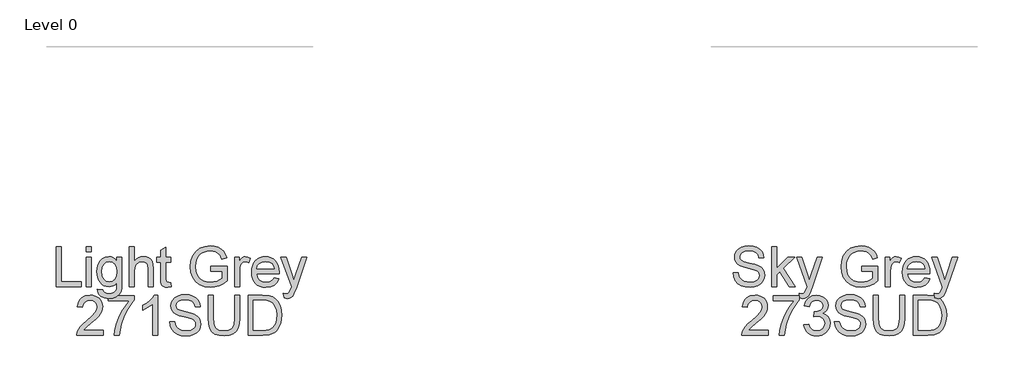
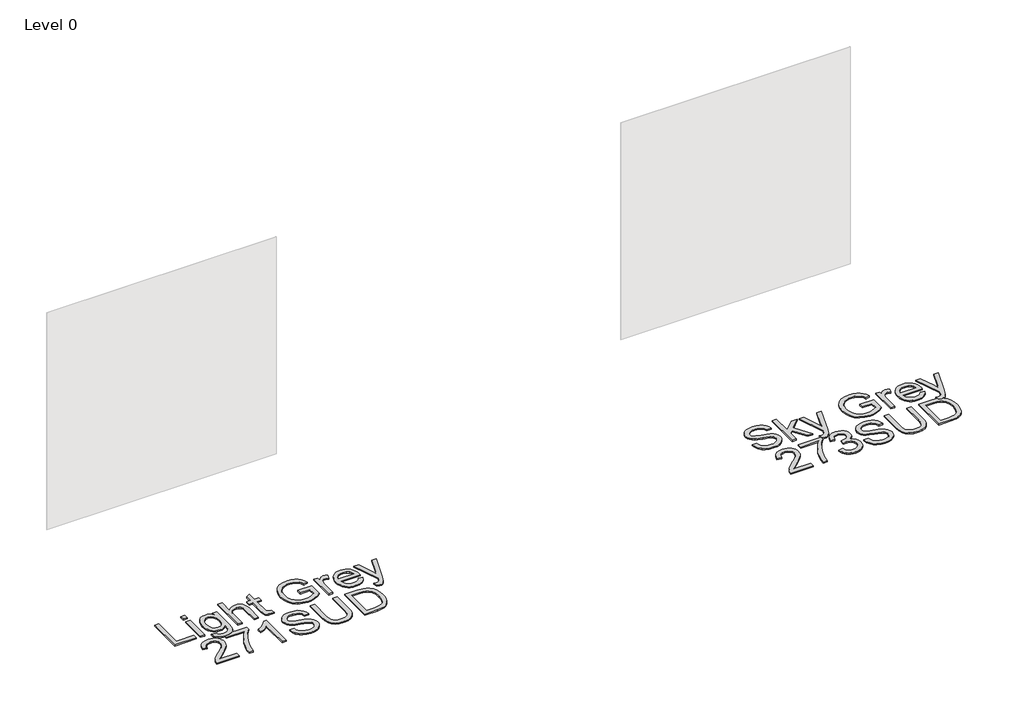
# One storey, part 19 of 37: 2 proxies.
"""IFC4 building model written with IfcOpenShell, lengths in millimetres."""

from ifc_helpers import new_model, si_unit, origin, origin_with_axes, place, context, project, spatial, polyline, outline, extrude, element, save

model = new_model("IFC4")

# Units and contexts
model_context = context("Model", 3, world=origin())
ifc_project = project(units=[si_unit("LENGTHUNIT", "METRE", prefix="MILLI")], contexts=[model_context])

# Site, building, storey
site = spatial("IfcSite", under=ifc_project)
building = spatial("IfcBuilding", under=site)
storey = spatial("IfcBuildingStorey", under=building, Name="Level 0", Elevation=0.0)

# Proxies
placement = place(None, origin())
element("IfcBuildingElementProxy", 1, Name="300mm Arial", ObjectType="300mm Arial", at=placement, inside=storey, context=model_context, shape_type="SweptSolid", body=[
    extrude(outline(polyline([(4713.5140507, -31849.2649241), (4751.185167, -31849.2649241), (4755.5077804, -31870.1698185), (4763.3252728, -31886.9728286), (4775.5205609, -31900.308551), (4792.9765616, -31910.8115819), (4814.3137173, -31917.6265959), (4838.1524706, -31919.8982672), (4859.1401384, -31918.1784189), (4877.5158441, -31913.0188739), (4892.4058679, -31904.8518936), (4902.93649, -31894.1097394), (4909.1996809, -31881.7764955), (4911.2874113, -31868.8362463), (4909.7239128, -31856.2270909), (4905.0334173, -31845.3285868), (4895.5052737, -31836.0303694), (4879.4288305, -31828.222074), (4824.577625, -31813.837888), (4788.5711747, -31804.3189414), (4765.5325648, -31795.2598472), (4746.7797801, -31782.5863125), (4733.490043, -31767.2272392), (4725.571383, -31749.5137211), (4722.9318297, -31729.7768521), (4726.1967824, -31707.7131294), (4735.9916406, -31687.1393289), (4752.0588867, -31669.7017223), (4774.1410035, -31657.0465817), (4800.6469012, -31649.3486509), (4829.9854903, -31646.782674), (4861.7704947, -31649.4682126), (4889.5823735, -31657.5248283), (4912.4278454, -31670.7869742), (4929.313629, -31689.0891034), (4940.000601, -31711.2907818), (4944.249638, -31736.2515752), (4906.5785217, -31736.2515752), (4899.6623402, -31713.7739853), (4885.241366, -31697.5503893), (4862.7085938, -31687.7279401), (4831.4570183, -31684.4537903), (4799.4696788, -31687.6911519), (4777.5255178, -31697.4032365), (4764.833589, -31711.695452), (4760.602946, -31728.6732061), (4763.6011843, -31743.1493626), (4772.5958991, -31754.7928278), (4793.8594784, -31765.2038882), (4834.1057687, -31775.8356779), (4875.6396459, -31785.9340387), (4900.7659862, -31794.7448125), (4922.2410977, -31808.4116286), (4937.2230919, -31825.2790181), (4946.0246687, -31845.1630399), (4948.9585276, -31867.8797531), (4945.5832103, -31891.102304), (4935.4572583, -31912.9452975), (4918.9945391, -31931.7440675), (4896.6089197, -31945.8339479), (4869.6891547, -31954.6355246), (4839.6239986, -31957.5693835), (4802.7162374, -31954.4055984), (4772.3383817, -31944.9142429), (4748.1409434, -31929.0585289), (4729.7744348, -31906.8016682), (4717.9838169, -31879.6887651), (4713.5140507, -31849.2649241)])), origin_with_axes(), (0.0, 0.0, 1.0), 10.0),
    extrude(outline(polyline([(5000.7563125, -31952.860494), (5000.7563125, -31651.4915635), (5038.4274288, -31651.4915635), (5038.4274288, -31813.4332178), (5122.8931349, -31731.5426857), (5174.9852254, -31731.5426857), (5089.4894497, -31814.4632874), (5179.6941149, -31952.860494), (5135.6954283, -31952.860494), (5062.4869113, -31840.6564855), (5038.4274288, -31863.9802039), (5038.4274288, -31952.860494), (5000.7563125, -31952.860494)])), origin_with_axes(), (0.0, 0.0, 1.0), 10.0),
    extrude(outline(polyline([(5212.6563417, -32037.6205057), (5207.9474522, -32001.3473409), (5227.0773159, -32004.6582789), (5244.9563809, -32000.5012124), (5255.9192643, -31988.9129295), (5266.2199602, -31961.1746271), (5269.1630162, -31952.0511536), (5189.111894, -31731.5426857), (5228.8431495, -31731.5426857), (5271.2967317, -31854.4152721), (5286.0855879, -31903.5643066), (5300.8744442, -31860.1542312), (5344.5052488, -31731.5426857), (5383.9421987, -31731.5426857), (5306.9077089, -31958.1579947), (5286.8949283, -32007.3070293), (5276.6494148, -32022.9971964), (5265.0427378, -32033.8681093), (5251.5598627, -32040.2140737), (5235.6857546, -32042.3293952), (5212.6563417, -32037.6205057)])), origin_with_axes(), (0.0, 0.0, 1.0), 10.0),
    extrude(outline(polyline([(5678.836406, -31835.1382555), (5678.836406, -31797.4671392), (5801.267534, -31797.4671392), (5801.267534, -31910.1126061), (5771.5150776, -31930.8059684), (5740.8245222, -31945.6500069), (5709.269444, -31954.5895394), (5676.9234196, -31957.5693835), (5634.6629754, -31952.8329028), (5596.4676273, -31938.6234608), (5564.7378052, -31915.437698), (5541.8739392, -31883.7722553), (5528.0507732, -31845.7884393), (5523.4430512, -31803.6475567), (5528.0323791, -31761.2031715), (5541.8003628, -31721.7202364), (5564.1767851, -31688.6016598), (5594.5914291, -31665.2503502), (5631.637146, -31651.399593), (5673.9067873, -31646.782674), (5704.9376336, -31649.4590155), (5732.8414829, -31657.4880401), (5756.3399453, -31670.2903335), (5774.1546309, -31687.2864817), (5787.3340034, -31709.295022), (5796.9265264, -31737.134492), (5762.1984661, -31746.9201531), (5754.4453531, -31727.0637224), (5745.0183769, -31712.0817281), (5732.5471773, -31700.7877509), (5715.6613937, -31691.9953712), (5695.5290515, -31686.3391855), (5673.3181761, -31684.4537903), (5647.3181161, -31686.4863383), (5625.0888465, -31692.5839824), (5606.7131408, -31701.9833674), (5592.2737725, -31713.9211381), (5572.8863914, -31742.9470275), (5564.0572235, -31771.3843058), (5561.1141675, -31802.1024524), (5564.6550317, -31838.1272967), (5575.2776244, -31867.7693885), (5592.6600486, -31890.8171955), (5616.4804078, -31907.0591856), (5644.356666, -31916.6884968), (5673.9067873, -31919.8982672), (5699.9988178, -31917.4794431), (5725.4470548, -31910.2229707), (5747.5475656, -31900.2257775), (5763.5964177, -31889.5847908), (5763.5964177, -31835.1382555), (5678.836406, -31835.1382555)])), origin_with_axes(), (0.0, 0.0, 1.0), 10.0),
    extrude(outline(polyline([(5857.7742084, -31952.860494), (5857.7742084, -31731.5426857), (5890.7364352, -31731.5426857), (5890.7364352, -31764.2841833), (5902.9133293, -31745.3014723), (5914.1337301, -31734.1178596), (5925.3909192, -31728.654812), (5937.6781778, -31726.8337961), (5956.4401596, -31729.7400639), (5975.4964469, -31738.4588672), (5962.9148827, -31772.2304343), (5949.6711308, -31766.4362929), (5936.427379, -31764.5049125), (5925.179387, -31766.3627165), (5915.1270115, -31771.9361288), (5907.0060165, -31780.8020848), (5901.5521659, -31792.5375205), (5896.972035, -31813.5803706), (5895.4453248, -31836.5362071), (5895.4453248, -31952.860494), (5857.7742084, -31952.860494)])), origin_with_axes(), (0.0, 0.0, 1.0), 10.0),
    extrude(outline(polyline([(6153.992791, -31886.9360404), (6190.9281433, -31891.64493), (6177.6200121, -31919.4752029), (6156.3840239, -31940.2789297), (6127.6984254, -31953.2467701), (6092.041463, -31957.5693835), (6068.6671607, -31955.7046817), (6047.8404413, -31950.1105761), (6029.5613046, -31940.7870668), (6013.8297508, -31927.7341537), (6001.1792087, -31911.3151204), (5992.1431072, -31891.8932503), (5986.7214463, -31869.4685435), (5984.914226, -31844.0409998), (5986.7398404, -31817.7512327), (5992.2166836, -31794.5792656), (6001.3447556, -31774.5250983), (6014.1240564, -31757.5887309), (6029.8142235, -31744.133447), (6047.6748944, -31734.5225298), (6067.706069, -31728.7559796), (6089.9077474, -31726.8337961), (6111.3943552, -31728.751381), (6130.8254223, -31734.5041357), (6148.2009488, -31744.0920602), (6163.5209346, -31757.5151545), (6176.0266232, -31774.4147337), (6184.9592579, -31794.4321128), (6190.3188387, -31817.5672917), (6192.1053657, -31843.8202706), (6191.8846365, -31853.9738137), (6022.5853423, -31853.9738137), (6029.1060507, -31882.1719686), (6044.2535918, -31902.902119), (6066.1149794, -31915.6492302), (6092.777227, -31919.8982672), (6112.8267957, -31917.9300985), (6129.7125793, -31912.0255925), (6143.4345777, -31901.8168672), (6153.992791, -31886.9360404)]), holes=[polyline([(6022.5853423, -31816.3026974), (6154.4342494, -31816.3026974), (6149.3390837, -31796.4002814), (6139.3510876, -31782.1632482), (6117.3885324, -31768.9194964), (6089.7605946, -31764.5049125), (6064.3675399, -31768.0273826), (6043.370675, -31778.5947929), (6028.7749569, -31795.0667092), (6022.5853423, -31816.3026974)])]), origin_with_axes(), (0.0, 0.0, 1.0), 10.0),
    extrude(outline(polyline([(6229.776482, -32037.6205057), (6225.0675924, -32001.3473409), (6244.1974562, -32004.6582789), (6262.0765211, -32000.5012124), (6273.0394046, -31988.9129295), (6283.3401005, -31961.1746271), (6286.2831564, -31952.0511536), (6206.2320343, -31731.5426857), (6245.9632898, -31731.5426857), (6288.416872, -31854.4152721), (6303.2057282, -31903.5643066), (6317.9945844, -31860.1542312), (6361.625389, -31731.5426857), (6401.0623389, -31731.5426857), (6324.0278491, -31958.1579947), (6304.0150686, -32007.3070293), (6293.769555, -32022.9971964), (6282.1628781, -32033.8681093), (6268.680003, -32040.2140737), (6252.8058949, -32042.3293952), (6229.776482, -32037.6205057)])), origin_with_axes(), (0.0, 0.0, 1.0), 10.0),
    extrude(outline(polyline([(4974.85742, -32281.1138312), (4974.85742, -32318.7849475), (4777.0840594, -32318.7849475), (4781.1307614, -32292.8124787), (4790.4197817, -32272.5145896), (4804.0130215, -32252.8237058), (4823.6763141, -32232.213117), (4851.1754932, -32209.156113), (4891.8264537, -32173.0484951), (4916.21703, -32146.3954446), (4928.4123181, -32124.7639833), (4932.4774142, -32103.7211331), (4928.6422444, -32084.8579838), (4917.136735, -32069.1770138), (4899.4508081, -32058.6096035), (4877.0743857, -32055.0871334), (4853.5759233, -32058.52683), (4835.3197793, -32068.84592), (4823.5383584, -32085.2350629), (4819.4640653, -32106.8849183), (4781.792949, -32102.1760288), (4790.9256195, -32065.7373171), (4799.4719781, -32051.2013798), (4810.6716856, -32039.1210548), (4824.2672246, -32029.6251008), (4840.0010776, -32022.8422765), (4877.8837261, -32017.4160171), (4898.0735498, -32018.9243332), (4916.042286, -32023.4492818), (4931.7899347, -32030.9908627), (4945.3164958, -32041.549076), (4956.180511, -32054.3421723), (4963.9405218, -32068.5884026), (4968.5965283, -32084.2877667), (4970.1485305, -32101.4402648), (4968.4746674, -32119.4572855), (4963.4530782, -32137.1616065), (4954.5411368, -32155.1694302), (4941.1962175, -32174.0969588), (4919.9234411, -32196.6941104), (4887.2279288, -32225.7108027), (4843.8914297, -32261.9471793), (4826.8952816, -32281.1138312), (4974.85742, -32281.1138312)])), origin_with_axes(), (0.0, 0.0, 1.0), 10.0),
    extrude(outline(polyline([(5012.5285363, -32059.7960229), (5012.5285363, -32022.1249066), (5210.3018969, -32022.1249066), (5210.3018969, -32052.5855358), (5182.1129391, -32088.2608923), (5154.1998927, -32133.6299393), (5129.5793901, -32184.5540045), (5111.2680638, -32236.8944154), (5102.2917432, -32276.0554538), (5097.288548, -32318.7849475), (5059.6174317, -32318.7849475), (5063.6917248, -32279.9550029), (5074.5902289, -32233.8042066), (5092.0186384, -32184.8850983), (5115.6826478, -32137.7502177), (5143.3105856, -32095.1402856), (5172.6307806, -32059.7960229), (5012.5285363, -32059.7960229)])), origin_with_axes(), (0.0, 0.0, 1.0), 10.0),
    extrude(outline(polyline([(5243.2641237, -32238.7338254), (5280.93524, -32234.0249358), (5289.3689348, -32257.6981422), (5301.7205727, -32273.6826149), (5318.5971593, -32282.7876943), (5340.6056996, -32285.8227207), (5366.4310157, -32281.6472601), (5386.3702198, -32269.1208782), (5399.117331, -32250.4324728), (5403.366368, -32227.7709419), (5399.1541192, -32206.2590422), (5386.5173726, -32188.8122386), (5367.3875089, -32177.2515469), (5343.6959084, -32173.397983), (5317.2819811, -32177.5182614), (5321.4758359, -32139.8471451), (5327.5091006, -32140.2886035), (5350.078661, -32137.5846708), (5370.2569884, -32129.4728728), (5384.4940217, -32115.7508744), (5389.2396994, -32096.2163404), (5385.8000027, -32079.9467592), (5375.4809128, -32066.7489926), (5359.7355634, -32058.0025982), (5340.0170884, -32055.0871334), (5320.2618253, -32058.0301893), (5304.1118057, -32066.8593572), (5292.3211878, -32081.574637), (5285.6441295, -32102.1760288), (5247.9730132, -32097.4671392), (5259.0646554, -32063.6403898), (5278.8015244, -32038.3852908), (5305.8040629, -32022.6583355), (5338.6927133, -32017.4160171), (5362.3751167, -32020.0003881), (5384.1261397, -32027.7535011), (5402.4650571, -32039.9855775), (5415.911144, -32056.0068384), (5424.1608978, -32074.4653175), (5426.9108157, -32094.0090485), (5424.2988535, -32112.2192072), (5416.462967, -32128.7371088), (5403.5135208, -32142.8085951), (5385.5608794, -32153.6795081), (5409.1421153, -32163.2076518), (5426.6165101, -32179.4312477), (5437.4322408, -32201.4673793), (5441.0374843, -32228.4331295), (5439.2348625, -32247.5445992), (5433.8269972, -32265.1477526), (5424.8138883, -32281.2425899), (5412.1955359, -32295.829111), (5396.822667, -32307.9324287), (5379.5460088, -32316.5776555), (5360.3655613, -32321.7647917), (5339.2813244, -32323.4938371), (5320.2250371, -32322.0177105), (5302.8610069, -32317.589331), (5287.1892339, -32310.2086985), (5273.2097181, -32299.875813), (5261.488078, -32287.1976797), (5252.5899323, -32272.781304), (5246.5152808, -32256.6266859), (5243.2641237, -32238.7338254)])), origin_with_axes(), (0.0, 0.0, 1.0), 10.0),
    extrude(outline(polyline([(5473.9997111, -32215.1893777), (5511.6708274, -32215.1893777), (5515.9934408, -32236.0942721), (5523.8109332, -32252.8972822), (5536.0062214, -32266.2330045), (5553.462222, -32276.7360355), (5574.7993778, -32283.5510494), (5598.638131, -32285.8227207), (5619.6257989, -32284.1028724), (5638.0015045, -32278.9433274), (5652.8915283, -32270.7763471), (5663.4221504, -32260.0341929), (5669.6853414, -32247.700949), (5671.7730717, -32234.7606998), (5670.2095732, -32222.1515444), (5665.5190778, -32211.2530403), (5655.9909341, -32201.9548229), (5639.9144909, -32194.1465276), (5585.0632854, -32179.7623415), (5549.0568351, -32170.2433949), (5526.0182252, -32161.1843008), (5507.2654405, -32148.510766), (5493.9757034, -32133.1516928), (5486.0570435, -32115.4381747), (5483.4174902, -32095.7013056), (5486.6824429, -32073.637583), (5496.477301, -32053.0637824), (5512.5445471, -32035.6261758), (5534.6266639, -32022.9710352), (5561.1325616, -32015.2731044), (5590.4711508, -32012.7071275), (5622.2561551, -32015.3926661), (5650.068034, -32023.4492818), (5672.9135059, -32036.7114277), (5689.7992895, -32055.013557), (5700.4862614, -32077.2152354), (5704.7352985, -32102.1760288), (5667.0641821, -32102.1760288), (5660.1480006, -32079.6984389), (5645.7270264, -32063.4748429), (5623.1942542, -32053.6523936), (5591.9426787, -32050.3782438), (5559.9553393, -32053.6156054), (5538.0111782, -32063.3276901), (5525.3192494, -32077.6199056), (5521.0886065, -32094.5976597), (5524.0868447, -32109.0738162), (5533.0815595, -32120.7172813), (5554.3451388, -32131.1283418), (5594.5914291, -32141.7601314), (5636.1253064, -32151.8584922), (5661.2516466, -32160.669266), (5682.7267581, -32174.3360821), (5697.7087523, -32191.2034716), (5706.5103291, -32211.0874934), (5709.444188, -32233.8042066), (5706.0688707, -32257.0267576), (5695.9429188, -32278.869751), (5679.4801995, -32297.668521), (5657.0945801, -32311.7584014), (5630.1748151, -32320.5599781), (5600.109659, -32323.4938371), (5563.2018979, -32320.3300519), (5532.8240421, -32310.8386964), (5508.6266039, -32294.9829824), (5490.2600953, -32272.7261217), (5478.4694773, -32245.6132187), (5473.9997111, -32215.1893777)])), origin_with_axes(), (0.0, 0.0, 1.0), 10.0),
    extrude(outline(polyline([(5963.7242231, -32017.4160171), (6001.3953394, -32017.4160171), (6001.3953394, -32191.277048), (5998.8385595, -32231.9923878), (5991.1682199, -32263.3451308), (5976.8392162, -32287.533372), (5954.306444, -32306.7552063), (5923.514721, -32319.3091794), (5884.4088649, -32323.4938371), (5846.1583345, -32319.8518053), (5815.5781436, -32308.92571), (5792.6590953, -32291.0926303), (5777.3919925, -32266.7296452), (5768.811145, -32234.052527), (5765.9508625, -32191.277048), (5765.9508625, -32017.4160171), (5803.6219788, -32017.4160171), (5803.6219788, -32189.9526728), (5805.4797828, -32223.8070134), (5811.0531951, -32247.3790523), (5821.1515558, -32263.7038158), (5836.5842055, -32275.8163305), (5856.7073507, -32283.3211232), (5880.8771977, -32285.8227207), (5919.1921075, -32280.8747079), (5933.5349068, -32274.6896919), (5944.6679357, -32266.0306694), (5953.0050614, -32253.8537754), (5958.9601512, -32237.1151446), (5963.7242231, -32189.9526728), (5963.7242231, -32017.4160171)])), origin_with_axes(), (0.0, 0.0, 1.0), 10.0),
    extrude(outline(polyline([(6067.3197929, -32318.7849475), (6067.3197929, -32017.4160171), (6171.2832447, -32017.4160171), (6225.0675924, -32021.7570246), (6249.0902867, -32030.12634), (6269.3605847, -32043.3149095), (6290.2010997, -32066.270746), (6305.0451382, -32094.8183889), (6313.9294884, -32128.406015), (6316.8909384, -32166.4818015), (6314.8859816, -32198.8278259), (6308.8711109, -32227.2926953), (6299.7108493, -32251.5269217), (6288.2697192, -32271.1810173), (6275.0995438, -32286.6964405), (6260.752146, -32298.5146496), (6244.2802296, -32307.2794381), (6224.7364986, -32313.6345996), (6176.2864399, -32318.7849475), (6067.3197929, -32318.7849475)]), holes=[polyline([(6104.9909092, -32281.1138312), (6171.6511267, -32281.1138312), (6199.2238823, -32279.7526678), (6220.1379737, -32275.6691777), (6235.9201113, -32269.1024841), (6248.0970053, -32260.2917103), (6261.1844073, -32243.9853408), (6271.0160536, -32222.8781114), (6277.16888, -32196.8780514), (6279.2198221, -32165.8931903), (6275.2007113, -32124.8375597), (6263.1433789, -32094.5240833), (6245.3286933, -32073.7019623), (6224.0375228, -32061.1203981), (6202.3692733, -32056.5954496), (6170.6210571, -32055.0871334), (6104.9909092, -32055.0871334), (6104.9909092, -32281.1138312)])]), origin_with_axes(), (0.0, 0.0, 1.0), 10.0),
])
element("IfcBuildingElementProxy", 2, Name="300mm Arial", ObjectType="300mm Arial", at=placement, inside=storey, context=model_context, shape_type="SweptSolid", body=[
    extrude(outline(polyline([(-378.3092953, -31952.860494), (-378.3092953, -31651.4915635), (-340.638179, -31651.4915635), (-340.638179, -31915.1893777), (-189.9537138, -31915.1893777), (-189.9537138, -31952.860494), (-378.3092953, -31952.860494)])), origin_with_axes(), (0.0, 0.0, 1.0), 10.0),
    extrude(outline(polyline([(-152.2825975, -31952.860494), (-152.2825975, -31731.5426857), (-114.6114812, -31731.5426857), (-114.6114812, -31952.860494), (-152.2825975, -31952.860494)])), origin_with_axes(), (0.0, 0.0, 1.0), 10.0),
    extrude(outline(polyline([(-152.2825975, -31689.1626798), (-152.2825975, -31651.4915635), (-114.6114812, -31651.4915635), (-114.6114812, -31689.1626798), (-152.2825975, -31689.1626798)])), origin_with_axes(), (0.0, 0.0, 1.0), 10.0),
    extrude(outline(polyline([(-67.5225858, -31971.6960521), (-29.8514695, -31976.4049417), (-25.694403, -31988.1771655), (-17.6377873, -31996.2705694), (-1.8004674, -32002.5613515), (18.929683, -32004.6582789), (41.039391, -32002.28544), (57.4837161, -31995.1669234), (68.888058, -31983.7625816), (75.8778159, -31968.532267), (78.4529899, -31924.6071568), (65.9174109, -31936.9679918), (51.928698, -31945.7971597), (36.4868513, -31951.0946604), (19.5918706, -31952.860494), (-1.0624041, -31950.8049533), (-19.247271, -31944.6383314), (-34.96273, -31934.3606281), (-48.2087811, -31919.9718436), (-58.7187098, -31902.708981), (-66.2258018, -31883.8090435), (-70.730057, -31863.2720311), (-72.2314754, -31841.0979438), (-69.5367397, -31810.6832999), (-61.4525329, -31782.7150712), (-48.2639634, -31759.0142737), (-30.2561397, -31741.4019232), (-8.0452642, -31730.4758279), (17.7524607, -31726.8337961), (35.3694097, -31728.8939353), (51.3584809, -31735.0743528), (65.7196743, -31745.3750487), (78.4529899, -31759.7960229), (78.4529899, -31731.5426857), (116.1241062, -31731.5426857), (116.1241062, -31922.620594), (113.5489322, -31966.7388422), (105.8234103, -31995.7923228), (92.5152791, -32015.0601423), (73.1922773, -32029.8214074), (48.2774692, -32039.2023982), (18.1939191, -32042.3293952), (-16.856038, -32037.9240083), (-44.4563847, -32024.7078476), (-54.8513503, -32014.7865301), (-62.1607057, -32002.644125), (-66.3844509, -31988.2806323), (-67.5225858, -31971.6960521)]), holes=[polyline([(-34.5603591, -31838.5227699), (-30.5412483, -31873.0760863), (-18.4839159, -31896.8320661), (-0.3565306, -31910.6000498), (21.872739, -31915.1893777), (43.9364617, -31910.6276409), (62.1558175, -31896.9424307), (74.3786968, -31873.4899535), (78.4529899, -31839.6264159), (74.2591351, -31806.9676917), (61.6775709, -31783.4508352), (43.1915006, -31769.2413931), (21.2841278, -31764.5049125), (-0.2277719, -31769.1678167), (-18.2631867, -31783.1565296), (-30.486066, -31806.3238983), (-34.5603591, -31838.5227699)])]), origin_with_axes(), (0.0, 0.0, 1.0), 10.0),
    extrude(outline(polyline([(172.6307806, -31952.860494), (172.6307806, -31651.4915635), (210.3018969, -31651.4915635), (210.3018969, -31762.2976205), (224.1388585, -31746.7821973), (239.6772743, -31735.6997522), (256.9171443, -31729.0502852), (275.8584685, -31726.8337961), (298.6119699, -31729.2526203), (318.1648979, -31736.5090926), (333.5607594, -31748.0329961), (343.8430612, -31763.2541137), (349.6372026, -31784.1682051), (351.5685831, -31812.7710302), (351.5685831, -31952.860494), (313.8974668, -31952.860494), (313.8974668, -31816.6705794), (310.8992285, -31793.0893435), (301.9045137, -31776.9393239), (287.4099631, -31767.6135153), (267.9122174, -31764.5049125), (251.992124, -31766.6018398), (237.046918, -31772.8926219), (224.6676888, -31782.7702535), (216.4455263, -31795.6277292), (211.8378043, -31812.7158479), (210.3018969, -31835.2854083), (210.3018969, -31952.860494), (172.6307806, -31952.860494)])), origin_with_axes(), (0.0, 0.0, 1.0), 10.0),
    extrude(outline(polyline([(483.4174902, -31921.4433716), (488.1263797, -31953.96414), (459.9466189, -31957.5693835), (441.8652188, -31956.005885), (428.3823437, -31951.3153896), (418.8542, -31944.0865084), (412.6369943, -31934.9078526), (409.2156917, -31919.1441091), (408.0752575, -31892.1599648), (408.0752575, -31769.213802), (379.8219203, -31769.213802), (379.8219203, -31731.5426857), (408.0752575, -31731.5426857), (408.0752575, -31677.758338), (445.7463739, -31655.6118419), (445.7463739, -31731.5426857), (483.4174902, -31731.5426857), (483.4174902, -31769.213802), (445.7463739, -31769.213802), (445.7463739, -31891.0563188), (447.7329366, -31910.4804881), (454.1708715, -31917.3598814), (467.0099532, -31919.8982672), (483.4174902, -31921.4433716)])), origin_with_axes(), (0.0, 0.0, 1.0), 10.0),
    extrude(outline(polyline([(784.7864206, -31835.1382555), (784.7864206, -31797.4671392), (907.2175486, -31797.4671392), (907.2175486, -31910.1126061), (877.4650922, -31930.8059684), (846.7745368, -31945.6500069), (815.2194587, -31954.5895394), (782.8734342, -31957.5693835), (740.61299, -31952.8329028), (702.4176419, -31938.6234608), (670.6878198, -31915.437698), (647.8239538, -31883.7722553), (634.0007878, -31845.7884393), (629.3930658, -31803.6475567), (633.9823937, -31761.2031715), (647.7503774, -31721.7202364), (670.1267998, -31688.6016598), (700.5414437, -31665.2503502), (737.5871606, -31651.399593), (779.8568019, -31646.782674), (810.8876482, -31649.4590155), (838.7914975, -31657.4880401), (862.2899599, -31670.2903335), (880.1046456, -31687.2864817), (893.284018, -31709.295022), (902.8765411, -31737.134492), (868.1484807, -31746.9201531), (860.3953677, -31727.0637224), (850.9683915, -31712.0817281), (838.4971919, -31700.7877509), (821.6114083, -31691.9953712), (801.4790661, -31686.3391855), (779.2681907, -31684.4537903), (753.2681307, -31686.4863383), (731.0388611, -31692.5839824), (712.6631555, -31701.9833674), (698.2237871, -31713.9211381), (678.836406, -31742.9470275), (670.0072381, -31771.3843058), (667.0641821, -31802.1024524), (670.6050464, -31838.1272967), (681.227639, -31867.7693885), (698.6100632, -31890.8171955), (722.4304224, -31907.0591856), (750.3066806, -31916.6884968), (779.8568019, -31919.8982672), (805.9488324, -31917.4794431), (831.3970694, -31910.2229707), (853.4975803, -31900.2257775), (869.5464323, -31889.5847908), (869.5464323, -31835.1382555), (784.7864206, -31835.1382555)])), origin_with_axes(), (0.0, 0.0, 1.0), 10.0),
    extrude(outline(polyline([(963.7242231, -31952.860494), (963.7242231, -31731.5426857), (996.6864498, -31731.5426857), (996.6864498, -31764.2841833), (1008.8633439, -31745.3014723), (1020.0837447, -31734.1178596), (1031.3409338, -31728.654812), (1043.6281924, -31726.8337961), (1062.3901742, -31729.7400639), (1081.4464615, -31738.4588672), (1068.8648973, -31772.2304343), (1055.6211455, -31766.4362929), (1042.3773936, -31764.5049125), (1031.1294016, -31766.3627165), (1021.0770261, -31771.9361288), (1012.9560311, -31780.8020848), (1007.5021805, -31792.5375205), (1002.9220496, -31813.5803706), (1001.3953394, -31836.5362071), (1001.3953394, -31952.860494), (963.7242231, -31952.860494)])), origin_with_axes(), (0.0, 0.0, 1.0), 10.0),
    extrude(outline(polyline([(1259.9428056, -31886.9360404), (1296.8781579, -31891.64493), (1283.5700267, -31919.4752029), (1262.3340385, -31940.2789297), (1233.64844, -31953.2467701), (1197.9914776, -31957.5693835), (1174.6171753, -31955.7046817), (1153.7904559, -31950.1105761), (1135.5113192, -31940.7870668), (1119.7797654, -31927.7341537), (1107.1292233, -31911.3151204), (1098.0931218, -31891.8932503), (1092.6714609, -31869.4685435), (1090.8642406, -31844.0409998), (1092.689855, -31817.7512327), (1098.1666982, -31794.5792656), (1107.2947702, -31774.5250983), (1120.074071, -31757.5887309), (1135.7642381, -31744.133447), (1153.624909, -31734.5225298), (1173.6560836, -31728.7559796), (1195.857762, -31726.8337961), (1217.3443698, -31728.751381), (1236.7754369, -31734.5041357), (1254.1509634, -31744.0920602), (1269.4709493, -31757.5151545), (1281.9766378, -31774.4147337), (1290.9092725, -31794.4321128), (1296.2688533, -31817.5672917), (1298.0553803, -31843.8202706), (1297.8346511, -31853.9738137), (1128.5353569, -31853.9738137), (1135.0560653, -31882.1719686), (1150.2036064, -31902.902119), (1172.064994, -31915.6492302), (1198.7272416, -31919.8982672), (1218.7768103, -31917.9300985), (1235.6625939, -31912.0255925), (1249.3845923, -31901.8168672), (1259.9428056, -31886.9360404)]), holes=[polyline([(1128.5353569, -31816.3026974), (1260.384264, -31816.3026974), (1255.2890983, -31796.4002814), (1245.3011022, -31782.1632482), (1223.3385471, -31768.9194964), (1195.7106092, -31764.5049125), (1170.3175545, -31768.0273826), (1149.3206896, -31778.5947929), (1134.7249715, -31795.0667092), (1128.5353569, -31816.3026974)])]), origin_with_axes(), (0.0, 0.0, 1.0), 10.0),
    extrude(outline(polyline([(1335.7264966, -32037.6205057), (1331.017607, -32001.3473409), (1350.1474708, -32004.6582789), (1368.0265358, -32000.5012124), (1378.9894192, -31988.9129295), (1389.2901151, -31961.1746271), (1392.233171, -31952.0511536), (1312.1820489, -31731.5426857), (1351.9133044, -31731.5426857), (1394.3668866, -31854.4152721), (1409.1557428, -31903.5643066), (1423.944599, -31860.1542312), (1467.5754037, -31731.5426857), (1507.0123535, -31731.5426857), (1429.9778637, -31958.1579947), (1409.9650832, -32007.3070293), (1399.7195696, -32022.9971964), (1388.1128927, -32033.8681093), (1374.6300176, -32040.2140737), (1358.7559095, -32042.3293952), (1335.7264966, -32037.6205057)])), origin_with_axes(), (0.0, 0.0, 1.0), 10.0),
    extrude(outline(polyline([(-25.14258, -32281.1138312), (-25.14258, -32318.7849475), (-222.9159406, -32318.7849475), (-218.8692386, -32292.8124787), (-209.5802183, -32272.5145896), (-195.9869785, -32252.8237058), (-176.3236859, -32232.213117), (-148.8245068, -32209.156113), (-108.1735463, -32173.0484951), (-83.78297, -32146.3954446), (-71.5876819, -32124.7639833), (-67.5225858, -32103.7211331), (-71.3577556, -32084.8579838), (-82.863265, -32069.1770138), (-100.5491919, -32058.6096035), (-122.9256143, -32055.0871334), (-146.4240767, -32058.52683), (-164.6802207, -32068.84592), (-176.4616416, -32085.2350629), (-180.5359347, -32106.8849183), (-218.207051, -32102.1760288), (-209.0743805, -32065.7373171), (-200.5280219, -32051.2013798), (-189.3283144, -32039.1210548), (-175.7327754, -32029.6251008), (-159.9989224, -32022.8422765), (-122.1162739, -32017.4160171), (-101.9264502, -32018.9243332), (-83.957714, -32023.4492818), (-68.2100653, -32030.9908627), (-54.6835042, -32041.549076), (-43.819489, -32054.3421723), (-36.0594782, -32068.5884026), (-31.4034717, -32084.2877667), (-29.8514695, -32101.4402648), (-31.5253326, -32119.4572855), (-36.5469218, -32137.1616065), (-45.4588632, -32155.1694302), (-58.8037825, -32174.0969588), (-80.0765589, -32196.6941104), (-112.7720712, -32225.7108027), (-156.1085703, -32261.9471793), (-173.1047184, -32281.1138312), (-25.14258, -32281.1138312)])), origin_with_axes(), (0.0, 0.0, 1.0), 10.0),
    extrude(outline(polyline([(12.5285363, -32059.7960229), (12.5285363, -32022.1249066), (210.3018969, -32022.1249066), (210.3018969, -32052.5855358), (182.1129391, -32088.2608923), (154.1998927, -32133.6299393), (129.5793901, -32184.5540045), (111.2680638, -32236.8944154), (102.2917432, -32276.0554538), (97.288548, -32318.7849475), (59.6174317, -32318.7849475), (63.6917248, -32279.9550029), (74.5902289, -32233.8042066), (92.0186384, -32184.8850983), (115.6826478, -32137.7502177), (143.3105856, -32095.1402856), (172.6307806, -32059.7960229), (12.5285363, -32059.7960229)])), origin_with_axes(), (0.0, 0.0, 1.0), 10.0),
    extrude(outline(polyline([(384.5308099, -32318.7849475), (346.8596935, -32318.7849475), (346.8596935, -32083.9290818), (311.17514, -32109.3497277), (271.5174609, -32128.3692268), (271.5174609, -32092.7582497), (301.1043704, -32076.6634124), (326.7365484, -32057.5151545), (346.942467, -32037.1528861), (360.2505982, -32017.4160171), (384.5308099, -32017.4160171), (384.5308099, -32318.7849475)])), origin_with_axes(), (0.0, 0.0, 1.0), 10.0),
    extrude(outline(polyline([(473.9997111, -32215.1893777), (511.6708274, -32215.1893777), (515.9934408, -32236.0942721), (523.8109332, -32252.8972822), (536.0062214, -32266.2330045), (553.462222, -32276.7360355), (574.7993778, -32283.5510494), (598.638131, -32285.8227207), (619.6257989, -32284.1028724), (638.0015045, -32278.9433274), (652.8915283, -32270.7763471), (663.4221504, -32260.0341929), (669.6853414, -32247.700949), (671.7730717, -32234.7606998), (670.2095732, -32222.1515444), (665.5190778, -32211.2530403), (655.9909341, -32201.9548229), (639.9144909, -32194.1465276), (585.0632854, -32179.7623415), (549.0568351, -32170.2433949), (526.0182252, -32161.1843008), (507.2654405, -32148.510766), (493.9757034, -32133.1516928), (486.0570435, -32115.4381747), (483.4174902, -32095.7013056), (486.6824429, -32073.637583), (496.477301, -32053.0637824), (512.5445471, -32035.6261758), (534.6266639, -32022.9710352), (561.1325616, -32015.2731044), (590.4711508, -32012.7071275), (622.2561551, -32015.3926661), (650.068034, -32023.4492818), (672.9135059, -32036.7114277), (689.7992895, -32055.013557), (700.4862614, -32077.2152354), (704.7352985, -32102.1760288), (667.0641821, -32102.1760288), (660.1480006, -32079.6984389), (645.7270264, -32063.4748429), (623.1942542, -32053.6523936), (591.9426787, -32050.3782438), (559.9553393, -32053.6156054), (538.0111782, -32063.3276901), (525.3192494, -32077.6199056), (521.0886065, -32094.5976597), (524.0868447, -32109.0738162), (533.0815595, -32120.7172813), (554.3451388, -32131.1283418), (594.5914291, -32141.7601314), (636.1253064, -32151.8584922), (661.2516466, -32160.669266), (682.7267581, -32174.3360821), (697.7087523, -32191.2034716), (706.5103291, -32211.0874934), (709.444188, -32233.8042066), (706.0688707, -32257.0267576), (695.9429188, -32278.869751), (679.4801995, -32297.668521), (657.0945801, -32311.7584014), (630.1748151, -32320.5599781), (600.109659, -32323.4938371), (563.2018979, -32320.3300519), (532.8240421, -32310.8386964), (508.6266039, -32294.9829824), (490.2600953, -32272.7261217), (478.4694773, -32245.6132187), (473.9997111, -32215.1893777)])), origin_with_axes(), (0.0, 0.0, 1.0), 10.0),
    extrude(outline(polyline([(963.7242231, -32017.4160171), (1001.3953394, -32017.4160171), (1001.3953394, -32191.277048), (998.8385595, -32231.9923878), (991.1682199, -32263.3451308), (976.8392162, -32287.533372), (954.306444, -32306.7552063), (923.514721, -32319.3091794), (884.4088649, -32323.4938371), (846.1583345, -32319.8518053), (815.5781436, -32308.92571), (792.6590953, -32291.0926303), (777.3919925, -32266.7296452), (768.811145, -32234.052527), (765.9508625, -32191.277048), (765.9508625, -32017.4160171), (803.6219788, -32017.4160171), (803.6219788, -32189.9526728), (805.4797828, -32223.8070134), (811.0531951, -32247.3790523), (821.1515558, -32263.7038158), (836.5842055, -32275.8163305), (856.7073507, -32283.3211232), (880.8771977, -32285.8227207), (919.1921075, -32280.8747079), (933.5349068, -32274.6896919), (944.6679357, -32266.0306694), (953.0050614, -32253.8537754), (958.9601512, -32237.1151446), (963.7242231, -32189.9526728), (963.7242231, -32017.4160171)])), origin_with_axes(), (0.0, 0.0, 1.0), 10.0),
    extrude(outline(polyline([(1067.3197929, -32318.7849475), (1067.3197929, -32017.4160171), (1171.2832447, -32017.4160171), (1225.0675924, -32021.7570246), (1249.0902867, -32030.12634), (1269.3605847, -32043.3149095), (1290.2010997, -32066.270746), (1305.0451382, -32094.8183889), (1313.9294884, -32128.406015), (1316.8909384, -32166.4818015), (1314.8859816, -32198.8278259), (1308.8711109, -32227.2926953), (1299.7108493, -32251.5269217), (1288.2697192, -32271.1810173), (1275.0995438, -32286.6964405), (1260.752146, -32298.5146496), (1244.2802296, -32307.2794381), (1224.7364986, -32313.6345996), (1176.2864399, -32318.7849475), (1067.3197929, -32318.7849475)]), holes=[polyline([(1104.9909092, -32281.1138312), (1171.6511267, -32281.1138312), (1199.2238823, -32279.7526678), (1220.1379737, -32275.6691777), (1235.9201113, -32269.1024841), (1248.0970053, -32260.2917103), (1261.1844073, -32243.9853408), (1271.0160536, -32222.8781114), (1277.16888, -32196.8780514), (1279.2198221, -32165.8931903), (1275.2007113, -32124.8375597), (1263.1433789, -32094.5240833), (1245.3286933, -32073.7019623), (1224.0375228, -32061.1203981), (1202.3692733, -32056.5954496), (1170.6210571, -32055.0871334), (1104.9909092, -32055.0871334), (1104.9909092, -32281.1138312)])]), origin_with_axes(), (0.0, 0.0, 1.0), 10.0),
])

save(model, "model.ifc")
